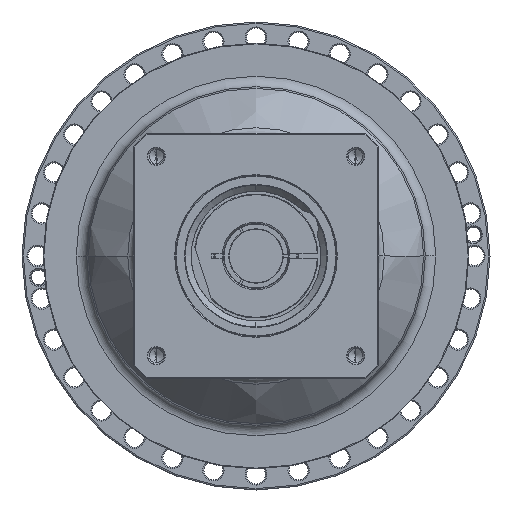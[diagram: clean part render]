
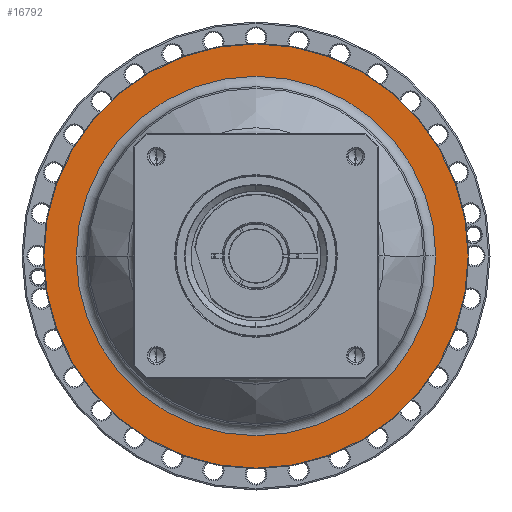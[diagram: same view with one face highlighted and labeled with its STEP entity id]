
A CAD part, left-side view. The second image highlights one B-rep face of the part: STEP entity #16792.
In plain terms, the highlighted planar face has unit normal (-1, 0, 0) as drawn and (1, 0, 0) by its records, which use the part's own axes.
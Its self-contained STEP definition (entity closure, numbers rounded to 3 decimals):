
#16305=CARTESIAN_POINT('',(-49.984,0.,0.));
#16306=DIRECTION('',(1.,0.,0.));
#16307=DIRECTION('',(0.,1.,0.));
#16308=AXIS2_PLACEMENT_3D('',#16305,#16306,#16307);
#16310=CARTESIAN_POINT('',(-49.984,0.,0.));
#16311=DIRECTION('',(1.,0.,0.));
#16312=DIRECTION('',(0.,-1.,0.));
#16313=AXIS2_PLACEMENT_3D('',#16310,#16311,#16312);
#16315=CARTESIAN_POINT('',(-50.,0.,0.));
#16316=DIRECTION('',(-1.,0.,0.));
#16317=DIRECTION('',(0.,-1.,0.));
#16318=AXIS2_PLACEMENT_3D('',#16315,#16316,#16317);
#16320=CARTESIAN_POINT('',(-50.,0.,0.));
#16321=DIRECTION('',(-1.,0.,0.));
#16322=DIRECTION('',(0.,1.,0.));
#16323=AXIS2_PLACEMENT_3D('',#16320,#16321,#16322);
#16445=CARTESIAN_POINT('',(-50.,-150.5,0.));
#16446=CARTESIAN_POINT('',(-50.,150.5,0.));
#16447=VERTEX_POINT('',#16445);
#16448=VERTEX_POINT('',#16446);
#16501=CARTESIAN_POINT('',(-49.984,127.5,0.));
#16502=VERTEX_POINT('',#16501);
#16503=CARTESIAN_POINT('',(-49.984,-127.5,0.));
#16504=VERTEX_POINT('',#16503);
#16777=CARTESIAN_POINT('',(-50.,0.,0.));
#16778=DIRECTION('',(1.,0.,0.));
#16779=DIRECTION('',(0.,-1.,0.));
#16780=AXIS2_PLACEMENT_3D('',#16777,#16778,#16779);
#16781=PLANE('',#16780);
#16783=ORIENTED_EDGE('',*,*,#16782,.T.);
#16785=ORIENTED_EDGE('',*,*,#16784,.T.);
#16786=EDGE_LOOP('',(#16783,#16785));
#16787=FACE_OUTER_BOUND('',#16786,.F.);
#16788=ORIENTED_EDGE('',*,*,#16771,.T.);
#16789=ORIENTED_EDGE('',*,*,#16757,.T.);
#16790=EDGE_LOOP('',(#16788,#16789));
#16791=FACE_BOUND('',#16790,.F.);
#16792=ADVANCED_FACE('',(#16787,#16791),#16781,.T.);
#16309=CIRCLE('',#16308,127.5);
#16314=CIRCLE('',#16313,127.5);
#16319=CIRCLE('',#16318,150.5);
#16324=CIRCLE('',#16323,150.5);
#16757=EDGE_CURVE('',#16504,#16502,#16314,.T.);
#16771=EDGE_CURVE('',#16502,#16504,#16309,.T.);
#16782=EDGE_CURVE('',#16447,#16448,#16319,.T.);
#16784=EDGE_CURVE('',#16448,#16447,#16324,.T.);
